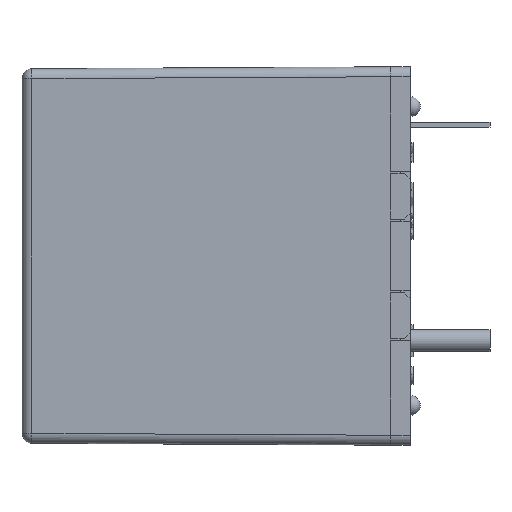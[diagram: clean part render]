
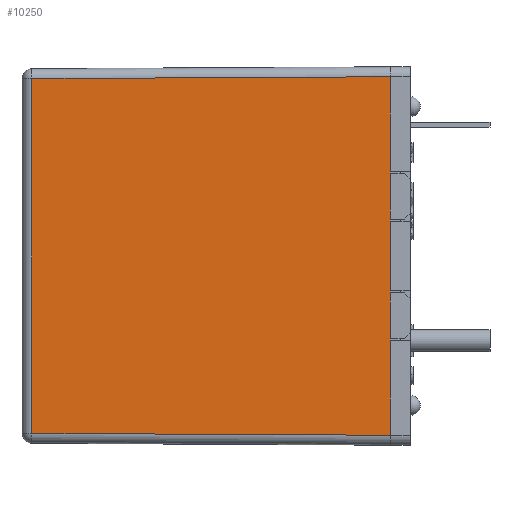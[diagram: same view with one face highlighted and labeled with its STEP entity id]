
A CAD part, left-side view. The second image highlights one B-rep face of the part: STEP entity #10250.
In plain terms, the highlighted planar face has unit normal (-1, 0, 0) as drawn and (0, 1, 0) by its records, which use the part's own axes.
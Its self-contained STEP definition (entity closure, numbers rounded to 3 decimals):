
#9540=CARTESIAN_POINT('',(-8.3,7.5,11.75));
#9550=DIRECTION('',(0.,1.,0.));
#9560=DIRECTION('',(1.,0.,0.));
#9570=AXIS2_PLACEMENT_3D('',#9540,#9550,#9560);
#9580=PLANE('',#9570);
#9590=CARTESIAN_POINT('',(0.,7.5,1.));
#9600=DIRECTION('',(-1.,0.,0.));
#9610=VECTOR('',#9600,1.);
#9620=LINE('',#9590,#9610);
#9630=CARTESIAN_POINT('',(9.,7.5,1.));
#9640=VERTEX_POINT('',#9630);
#9650=CARTESIAN_POINT('',(4.25,7.5,1.));
#9660=VERTEX_POINT('',#9650);
#9670=EDGE_CURVE('',#9640,#9660,#9620,.T.);
#9680=ORIENTED_EDGE('',*,*,#9670,.T.);
#9690=CARTESIAN_POINT('',(8.903,7.5,19.497));
#9700=DIRECTION('',(0.005,0.,
-1.));
#9710=VECTOR('',#9700,1000.);
#9720=LINE('',#9690,#9710);
#9730=CARTESIAN_POINT('',(8.906,7.5,19.));
#9740=VERTEX_POINT('',#9730);
#9750=EDGE_CURVE('',#9740,#9640,#9720,.T.);
#9760=ORIENTED_EDGE('',*,*,#9750,.T.);
#9770=CARTESIAN_POINT('',(8.903,7.5,19.));
#9780=DIRECTION('',(1.,0.,0.));
#9790=VECTOR('',#9780,1000.);
#9800=LINE('',#9770,#9790);
#9810=CARTESIAN_POINT('',(-8.906,7.5,19.));
#9820=VERTEX_POINT('',#9810);
#9830=EDGE_CURVE('',#9820,#9740,#9800,.T.);
#9840=ORIENTED_EDGE('',*,*,#9830,.T.);
#9850=CARTESIAN_POINT('',(-8.903,7.5,19.596));
#9860=DIRECTION('',(0.005,0.,
1.));
#9870=VECTOR('',#9860,1000.);
#9880=LINE('',#9850,#9870);
#9890=CARTESIAN_POINT('',(-9.,7.5,1.));
#9900=VERTEX_POINT('',#9890);
#9910=EDGE_CURVE('',#9900,#9820,#9880,.T.);
#9920=ORIENTED_EDGE('',*,*,#9910,.T.);
#9930=CARTESIAN_POINT('',(-4.25,7.5,1.));
#9940=VERTEX_POINT('',#9930);
#9950=EDGE_CURVE('',#9940,#9900,#9620,.T.);
#9960=ORIENTED_EDGE('',*,*,#9950,.T.);
#9970=CARTESIAN_POINT('',(-4.15,7.5,1.));
#9980=VERTEX_POINT('',#9970);
#9990=EDGE_CURVE('',#9980,#9940,#9620,.T.);
#10000=ORIENTED_EDGE('',*,*,#9990,.T.);
#10010=CARTESIAN_POINT('',(-1.85,7.5,1.));
#10020=VERTEX_POINT('',#10010);
#10030=EDGE_CURVE('',#10020,#9980,#9620,.T.);
#10040=ORIENTED_EDGE('',*,*,#10030,.T.);
#10050=CARTESIAN_POINT('',(-1.75,7.5,1.));
#10060=VERTEX_POINT('',#10050);
#10070=EDGE_CURVE('',#10060,#10020,#9620,.T.);
#10080=ORIENTED_EDGE('',*,*,#10070,.T.);
#10090=CARTESIAN_POINT('',(1.75,7.5,1.));
#10100=VERTEX_POINT('',#10090);
#10110=EDGE_CURVE('',#10100,#10060,#9620,.T.);
#10120=ORIENTED_EDGE('',*,*,#10110,.T.);
#10130=CARTESIAN_POINT('',(1.85,7.5,1.));
#10140=VERTEX_POINT('',#10130);
#10150=EDGE_CURVE('',#10140,#10100,#9620,.T.);
#10160=ORIENTED_EDGE('',*,*,#10150,.T.);
#10170=CARTESIAN_POINT('',(4.15,7.5,1.));
#10180=VERTEX_POINT('',#10170);
#10190=EDGE_CURVE('',#10180,#10140,#9620,.T.);
#10200=ORIENTED_EDGE('',*,*,#10190,.T.);
#10210=EDGE_CURVE('',#9660,#10180,#9620,.T.);
#10220=ORIENTED_EDGE('',*,*,#10210,.T.);
#10230=EDGE_LOOP('',(#10220,#10200,#10160,#10120,#10080,#10040,#10000,
#9960,#9920,#9840,#9760,#9680));
#10240=FACE_OUTER_BOUND('',#10230,.T.);
#10250=ADVANCED_FACE('',(#10240),#9580,.T.);
